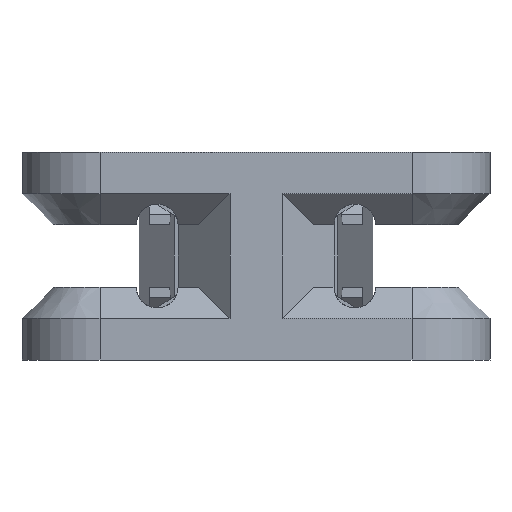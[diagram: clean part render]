
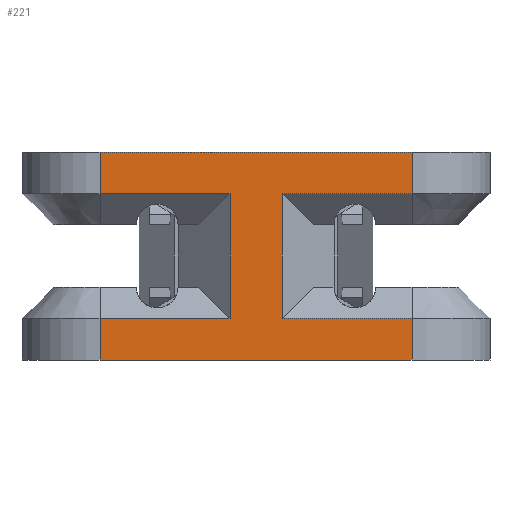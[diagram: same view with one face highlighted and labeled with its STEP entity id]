
A CAD part, left-side view. The second image highlights one B-rep face of the part: STEP entity #221.
In plain terms, the highlighted planar face has unit normal (-1, 0, 0).
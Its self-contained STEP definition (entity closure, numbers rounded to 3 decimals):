
#221 = ADVANCED_FACE( '', ( #516 ), #517, .T. );
#516 = FACE_OUTER_BOUND( '', #899, .T. );
#517 = PLANE( '', #900 );
#899 = EDGE_LOOP( '', ( #1465, #1466, #1467, #1468, #1469, #1470, #1471, #1472, #1473, #1474, #1475, #1476 ) );
#900 = AXIS2_PLACEMENT_3D( '', #1477, #1478, #1479 );
#1465 = ORIENTED_EDGE( '', *, *, #2215, .T. );
#1466 = ORIENTED_EDGE( '', *, *, #2277, .T. );
#1467 = ORIENTED_EDGE( '', *, *, #2278, .F. );
#1468 = ORIENTED_EDGE( '', *, *, #2279, .T. );
#1469 = ORIENTED_EDGE( '', *, *, #2280, .T. );
#1470 = ORIENTED_EDGE( '', *, *, #2281, .T. );
#1471 = ORIENTED_EDGE( '', *, *, #2282, .T. );
#1472 = ORIENTED_EDGE( '', *, *, #2105, .T. );
#1473 = ORIENTED_EDGE( '', *, *, #2283, .T. );
#1474 = ORIENTED_EDGE( '', *, *, #2284, .F. );
#1475 = ORIENTED_EDGE( '', *, *, #2132, .F. );
#1476 = ORIENTED_EDGE( '', *, *, #2285, .T. );
#1477 = CARTESIAN_POINT( '', ( -265., -30., 0. ) );
#1478 = DIRECTION( '', ( -1., 0., 0. ) );
#1479 = DIRECTION( '', ( 0., 0., 1. ) );
#2105 = EDGE_CURVE( '', #2483, #2481, #2484, .T. );
#2132 = EDGE_CURVE( '', #2529, #2531, #2532, .T. );
#2215 = EDGE_CURVE( '', #2674, #2672, #2675, .T. );
#2277 = EDGE_CURVE( '', #2672, #2768, #2769, .T. );
#2278 = EDGE_CURVE( '', #2770, #2768, #2771, .T. );
#2279 = EDGE_CURVE( '', #2770, #2772, #2773, .T. );
#2280 = EDGE_CURVE( '', #2772, #2774, #2775, .T. );
#2281 = EDGE_CURVE( '', #2774, #2776, #2777, .T. );
#2282 = EDGE_CURVE( '', #2776, #2483, #2778, .T. );
#2283 = EDGE_CURVE( '', #2481, #2779, #2780, .T. );
#2284 = EDGE_CURVE( '', #2531, #2779, #2781, .T. );
#2285 = EDGE_CURVE( '', #2529, #2674, #2782, .T. );
#2481 = VERTEX_POINT( '', #3089 );
#2483 = VERTEX_POINT( '', #3092 );
#2484 = LINE( '', #3093, #3094 );
#2529 = VERTEX_POINT( '', #3458 );
#2531 = VERTEX_POINT( '', #3460 );
#2532 = LINE( '', #3461, #3462 );
#2672 = VERTEX_POINT( '', #3713 );
#2674 = VERTEX_POINT( '', #3716 );
#2675 = LINE( '', #3717, #3718 );
#2768 = VERTEX_POINT( '', #3948 );
#2769 = LINE( '', #3949, #3950 );
#2770 = VERTEX_POINT( '', #3951 );
#2771 = LINE( '', #3952, #3953 );
#2772 = VERTEX_POINT( '', #3954 );
#2773 = LINE( '', #3955, #3956 );
#2774 = VERTEX_POINT( '', #3957 );
#2775 = LINE( '', #3958, #3959 );
#2776 = VERTEX_POINT( '', #3960 );
#2777 = LINE( '', #3961, #3962 );
#2778 = LINE( '', #3963, #3964 );
#2779 = VERTEX_POINT( '', #3965 );
#2780 = LINE( '', #3966, #3967 );
#2781 = LINE( '', #3968, #3969 );
#2782 = LINE( '', #3970, #3971 );
#3089 = CARTESIAN_POINT( '', ( -265., 30., -32. ) );
#3092 = CARTESIAN_POINT( '', ( -265., 5., -32. ) );
#3093 = CARTESIAN_POINT( '', ( -265., 30., -32. ) );
#3094 = VECTOR( '', #4433, 1000. );
#3458 = CARTESIAN_POINT( '', ( -265., -30., -32. ) );
#3460 = CARTESIAN_POINT( '', ( -265., -30., -40. ) );
#3461 = CARTESIAN_POINT( '', ( -265., -30., 0. ) );
#3462 = VECTOR( '', #4461, 1000. );
#3713 = CARTESIAN_POINT( '', ( -265., -5., -8. ) );
#3716 = CARTESIAN_POINT( '', ( -265., -5., -32. ) );
#3717 = CARTESIAN_POINT( '', ( -265., -5., 0. ) );
#3718 = VECTOR( '', #4555, 1000. );
#3948 = CARTESIAN_POINT( '', ( -265., -30., -8. ) );
#3949 = CARTESIAN_POINT( '', ( -265., -30., -8. ) );
#3950 = VECTOR( '', #4616, 1000. );
#3951 = CARTESIAN_POINT( '', ( -265., -30., 0. ) );
#3952 = CARTESIAN_POINT( '', ( -265., -30., 0. ) );
#3953 = VECTOR( '', #4617, 1000. );
#3954 = CARTESIAN_POINT( '', ( -265., 30., 0. ) );
#3955 = CARTESIAN_POINT( '', ( -265., -30., 0. ) );
#3956 = VECTOR( '', #4618, 1000. );
#3957 = CARTESIAN_POINT( '', ( -265., 30., -8. ) );
#3958 = CARTESIAN_POINT( '', ( -265., 30., 0. ) );
#3959 = VECTOR( '', #4619, 1000. );
#3960 = CARTESIAN_POINT( '', ( -265., 5., -8. ) );
#3961 = CARTESIAN_POINT( '', ( -265., 23., -8. ) );
#3962 = VECTOR( '', #4620, 1000. );
#3963 = CARTESIAN_POINT( '', ( -265., 5., -26. ) );
#3964 = VECTOR( '', #4621, 1000. );
#3965 = CARTESIAN_POINT( '', ( -265., 30., -40. ) );
#3966 = CARTESIAN_POINT( '', ( -265., 30., 0. ) );
#3967 = VECTOR( '', #4622, 1000. );
#3968 = CARTESIAN_POINT( '', ( -265., -30., -40. ) );
#3969 = VECTOR( '', #4623, 1000. );
#3970 = CARTESIAN_POINT( '', ( -265., -30., -32. ) );
#3971 = VECTOR( '', #4624, 1000. );
#4433 = DIRECTION( '', ( 0., 1., 0. ) );
#4461 = DIRECTION( '', ( 0., 0., -1. ) );
#4555 = DIRECTION( '', ( 0., 0., 1. ) );
#4616 = DIRECTION( '', ( 0., -1., 0. ) );
#4617 = DIRECTION( '', ( 0., 0., -1. ) );
#4618 = DIRECTION( '', ( 0., 1., 0. ) );
#4619 = DIRECTION( '', ( 0., 0., -1. ) );
#4620 = DIRECTION( '', ( 0., -1., 0. ) );
#4621 = DIRECTION( '', ( 0., 0., -1. ) );
#4622 = DIRECTION( '', ( 0., 0., -1. ) );
#4623 = DIRECTION( '', ( 0., 1., 0. ) );
#4624 = DIRECTION( '', ( 0., 1., 0. ) );
